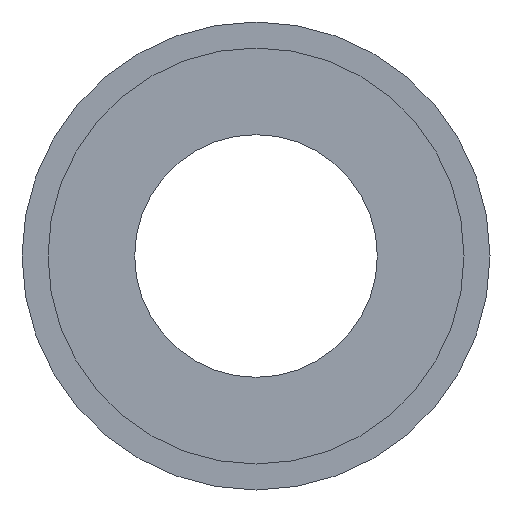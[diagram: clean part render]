
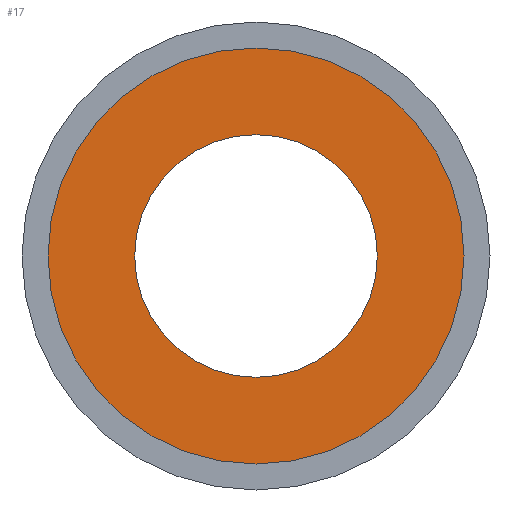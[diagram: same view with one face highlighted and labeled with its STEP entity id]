
A CAD part, left-side view. The second image highlights one B-rep face of the part: STEP entity #17.
In plain terms, the highlighted planar face has unit normal (-1, 0, 0).
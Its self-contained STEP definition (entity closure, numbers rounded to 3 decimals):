
#17 = ADVANCED_FACE('',(#18,#54),#31,.F.);
#18 = FACE_BOUND('',#19,.T.);
#19 = EDGE_LOOP('',(#20));
#20 = ORIENTED_EDGE('',*,*,#21,.T.);
#21 = EDGE_CURVE('',#22,#22,#24,.T.);
#22 = VERTEX_POINT('',#23);
#23 = CARTESIAN_POINT('',(0.,7.,0.));
#24 = SURFACE_CURVE('',#25,(#30,#42),.PCURVE_S1.);
#25 = CIRCLE('',#26,7.);
#26 = AXIS2_PLACEMENT_3D('',#27,#28,#29);
#27 = CARTESIAN_POINT('',(0.,0.,0.));
#28 = DIRECTION('',(1.,0.,0.));
#29 = DIRECTION('',(-0.,1.,0.));
#30 = PCURVE('',#31,#36);
#31 = PLANE('',#32);
#32 = AXIS2_PLACEMENT_3D('',#33,#34,#35);
#33 = CARTESIAN_POINT('',(0.,0.,0.));
#34 = DIRECTION('',(1.,0.,0.));
#35 = DIRECTION('',(-0.,1.,0.));
#36 = DEFINITIONAL_REPRESENTATION('',(#37),#41);
#37 = CIRCLE('',#38,7.);
#38 = AXIS2_PLACEMENT_2D('',#39,#40);
#39 = CARTESIAN_POINT('',(0.,0.));
#40 = DIRECTION('',(1.,-0.));
#41 = ( GEOMETRIC_REPRESENTATION_CONTEXT(2) 
PARAMETRIC_REPRESENTATION_CONTEXT() REPRESENTATION_CONTEXT('2D SPACE',''
  ) );
#42 = PCURVE('',#43,#48);
#43 = CYLINDRICAL_SURFACE('',#44,7.);
#44 = AXIS2_PLACEMENT_3D('',#45,#46,#47);
#45 = CARTESIAN_POINT('',(16.,0.,0.));
#46 = DIRECTION('',(-1.,-0.,-0.));
#47 = DIRECTION('',(0.,1.,0.));
#48 = DEFINITIONAL_REPRESENTATION('',(#49),#53);
#49 = LINE('',#50,#51);
#50 = CARTESIAN_POINT('',(-0.,16.));
#51 = VECTOR('',#52,1.);
#52 = DIRECTION('',(-1.,0.));
#53 = ( GEOMETRIC_REPRESENTATION_CONTEXT(2) 
PARAMETRIC_REPRESENTATION_CONTEXT() REPRESENTATION_CONTEXT('2D SPACE',''
  ) );
#54 = FACE_BOUND('',#55,.T.);
#55 = EDGE_LOOP('',(#56));
#56 = ORIENTED_EDGE('',*,*,#57,.F.);
#57 = EDGE_CURVE('',#58,#58,#60,.T.);
#58 = VERTEX_POINT('',#59);
#59 = CARTESIAN_POINT('',(0.,12.,0.));
#60 = SURFACE_CURVE('',#61,(#66,#73),.PCURVE_S1.);
#61 = CIRCLE('',#62,12.);
#62 = AXIS2_PLACEMENT_3D('',#63,#64,#65);
#63 = CARTESIAN_POINT('',(0.,0.,0.));
#64 = DIRECTION('',(1.,0.,0.));
#65 = DIRECTION('',(-0.,1.,0.));
#66 = PCURVE('',#31,#67);
#67 = DEFINITIONAL_REPRESENTATION('',(#68),#72);
#68 = CIRCLE('',#69,12.);
#69 = AXIS2_PLACEMENT_2D('',#70,#71);
#70 = CARTESIAN_POINT('',(0.,0.));
#71 = DIRECTION('',(1.,-0.));
#72 = ( GEOMETRIC_REPRESENTATION_CONTEXT(2) 
PARAMETRIC_REPRESENTATION_CONTEXT() REPRESENTATION_CONTEXT('2D SPACE',''
  ) );
#73 = PCURVE('',#74,#79);
#74 = CYLINDRICAL_SURFACE('',#75,12.);
#75 = AXIS2_PLACEMENT_3D('',#76,#77,#78);
#76 = CARTESIAN_POINT('',(0.,0.,0.));
#77 = DIRECTION('',(1.,0.,0.));
#78 = DIRECTION('',(-0.,1.,0.));
#79 = DEFINITIONAL_REPRESENTATION('',(#80),#84);
#80 = LINE('',#81,#82);
#81 = CARTESIAN_POINT('',(0.,0.));
#82 = VECTOR('',#83,1.);
#83 = DIRECTION('',(1.,0.));
#84 = ( GEOMETRIC_REPRESENTATION_CONTEXT(2) 
PARAMETRIC_REPRESENTATION_CONTEXT() REPRESENTATION_CONTEXT('2D SPACE',''
  ) );
